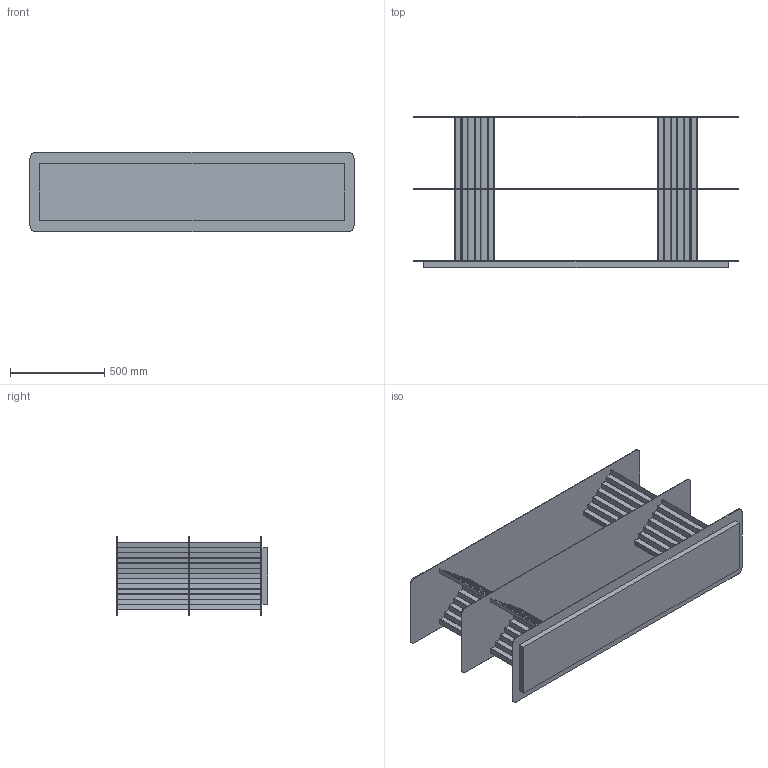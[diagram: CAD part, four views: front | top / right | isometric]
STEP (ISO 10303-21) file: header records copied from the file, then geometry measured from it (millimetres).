
FILE_DESCRIPTION (( 'STEP AP203' ), '1' );
FILE_NAME ('PLEC SHELVES S 2 NIVELES.STEP', '2025-05-08T10:10:27', ( '' ), ( '' ), 'SwSTEP 2.0', 'SolidWorks 2020', '' );
FILE_SCHEMA (( 'CONFIG_CONTROL_DESIGN' ));
Length unit declared in the file: millimetre
Products named in the file (1): PLEC SHELVES S 2 NIVELES
Bounding box: 1723 x 803 x 420 mm (x, y, z)
Volume: 27063963.2 mm3; surface area: 7688783.4 mm2
Topology: 8 solids, 8 shells, 252 faces, 708 edges, 472 vertices
Faces by surface type: plane 240, cylinder 12
Entity records: 8039 total; most frequent: CARTESIAN_POINT 1433, ORIENTED_EDGE 1416, DIRECTION 1238, EDGE_CURVE 708, LINE 684, VECTOR 684, VERTEX_POINT 472, AXIS2_PLACEMENT_3D 277
